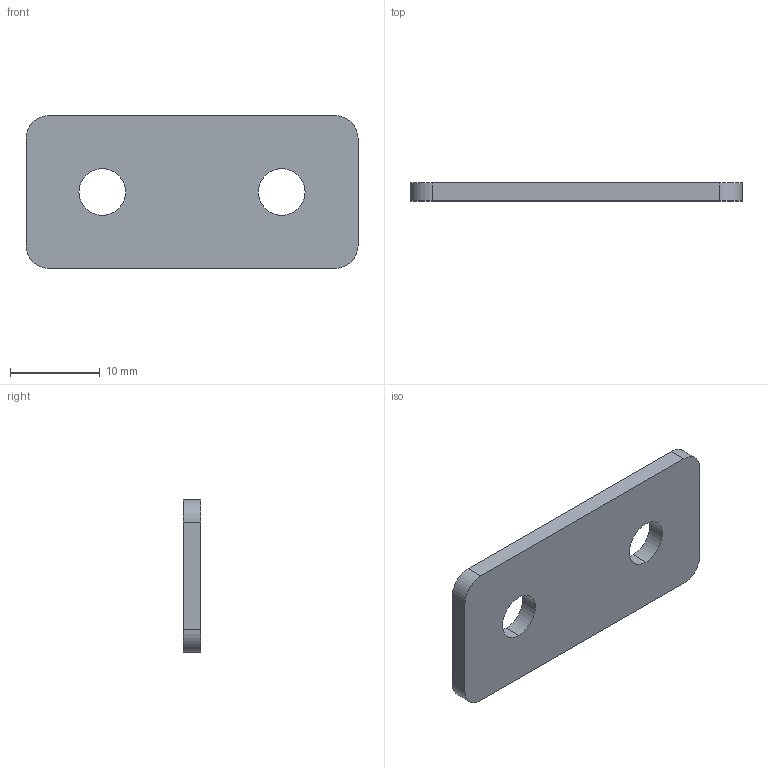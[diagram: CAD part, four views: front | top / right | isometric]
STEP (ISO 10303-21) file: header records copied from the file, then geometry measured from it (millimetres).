
FILE_DESCRIPTION (( 'STEP AP203' ), '1' );
FILE_NAME ('ﾏ-2-20.STEP', '2016-07-23T14:20:53', ( '' ), ( '' ), 'SwSTEP 2.0', 'SolidWorks 2014', '' );
FILE_SCHEMA (( 'CONFIG_CONTROL_DESIGN' ));
Length unit declared in the file: millimetre
Products named in the file (1): ﾏ-2-20
Bounding box: 37 x 2 x 17 mm (x, y, z)
Surface area: 1435.1 mm2 (no closed solid volume)
Topology: 0 solids, 1 shells, 14 faces, 36 edges, 24 vertices
Faces by surface type: cylinder 8, plane 6
Entity records: 521 total; most frequent: DIRECTION 82, CARTESIAN_POINT 75, ORIENTED_EDGE 72, EDGE_CURVE 36, AXIS2_PLACEMENT_3D 31, VERTEX_POINT 24, LINE 20, VECTOR 20
